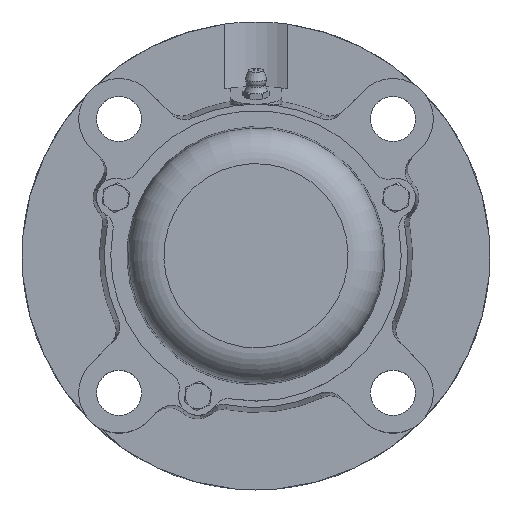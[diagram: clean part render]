
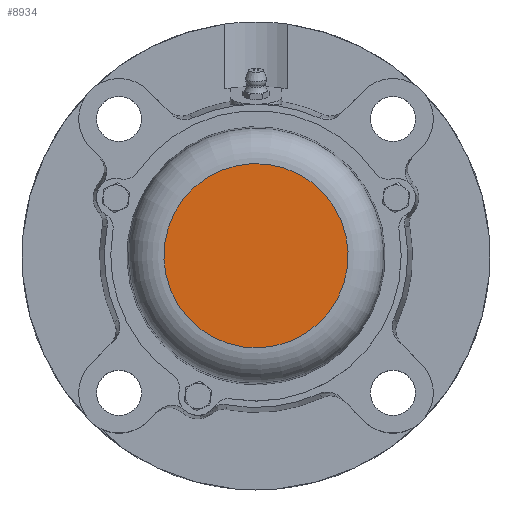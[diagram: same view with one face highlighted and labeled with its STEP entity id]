
A CAD part, top view. The second image highlights one B-rep face of the part: STEP entity #8934.
In plain terms, the highlighted planar face has unit normal (0, 0, 1).
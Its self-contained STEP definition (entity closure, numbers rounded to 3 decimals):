
#8903=CARTESIAN_POINT('',(-28.536,0.0,26.0));
#8904=VERTEX_POINT('',#8903);
#8905=CARTESIAN_POINT('',(0.0,0.0,26.0));
#8906=DIRECTION('',(0.0,0.0,-1.0));
#8907=DIRECTION('',(1.0,0.0,0.0));
#8908=AXIS2_PLACEMENT_3D('',#8905,#8906,#8907);
#8909=CIRCLE('',#8908,28.536);
#8910=EDGE_CURVE('',#8904,#8904,#8909,.T.);
#8926=CARTESIAN_POINT('',(0.0,0.0,26.0));
#8927=DIRECTION('',(0.0,0.0,-1.0));
#8928=DIRECTION('',(-1.0,0.0,0.0));
#8929=AXIS2_PLACEMENT_3D('',#8926,#8927,#8928);
#8930=PLANE('',#8929);
#8931=ORIENTED_EDGE('',*,*,#8910,.F.);
#8932=EDGE_LOOP('',(#8931));
#8933=FACE_OUTER_BOUND('',#8932,.T.);
#8934=ADVANCED_FACE('',(#8933),#8930,.F.);
